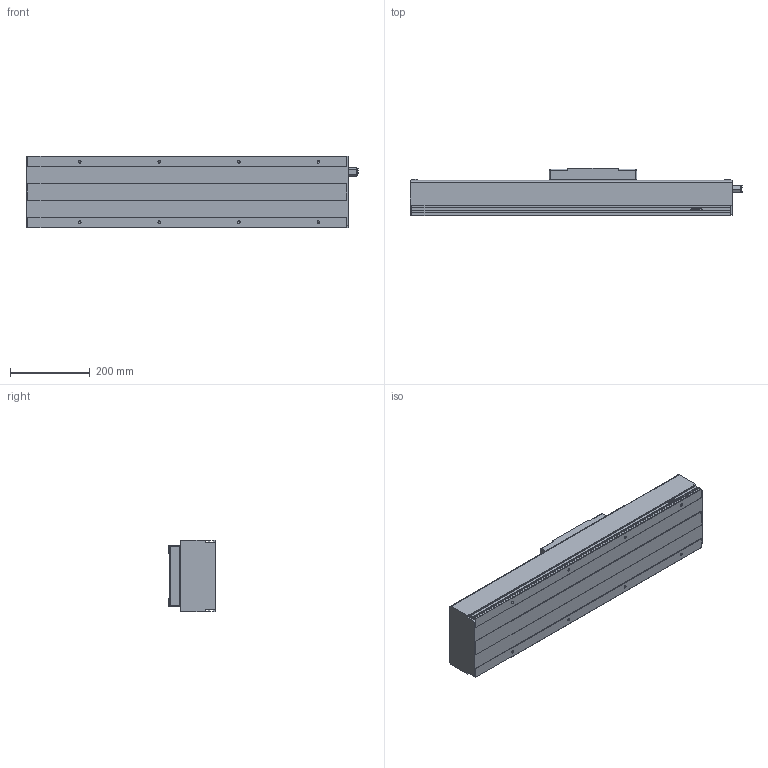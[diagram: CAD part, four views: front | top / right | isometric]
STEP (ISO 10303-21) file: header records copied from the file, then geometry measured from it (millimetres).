
FILE_DESCRIPTION(/* description */ (''),/* implementation_level */ '2;1');
FILE_NAME(/* name */ 'D:\混合母檔20191031\混和母檔\混和母檔\bin\Debug\Download\3D\KS180-20C-300AFI\KS180-20C-300AFI.stp',/* time_stamp */ '2019-11-04T16:18:29+08:00',/* author */ ('user'),/* organization */ (''),/* preprocessor_version */ 'ST-DEVELOPER v16.13',/* originating_system */ 'Autodesk Inventor 2018',/* authorisation */ '');
FILE_SCHEMA (('AUTOMOTIVE_DESIGN { 1 0 10303 214 3 1 1 }'));
Length unit declared in the file: millimetre
Products named in the file (3): KS180-20C-300AFI; KS180-FI; KS180-SL
Assembly tree (2 placements, depth 2):
  KS180-20C-300AFI
    KS180-FI
    KS180-SL
Bounding box: 834.5 x 118 x 180 mm (x, y, z)
Volume: 5079730.2 mm3; surface area: 1062921.8 mm2
Topology: 4 solids, 8 shells, 726 faces, 1934 edges, 1262 vertices
Faces by surface type: plane 408, bspline 136, cylinder 82, cone 80, torus 16, sphere 4
Full cylindrical faces by diameter (mm): 3.571 x4, 4 x4, 4.134 x4, 4.5 x4, 6 x6, 6.647 x8, 8 x6, 8.016 x1, 8.4 x4, 9.4 x4, 12 x2, 13.1 x1, 15 x1, 18.75 x2, 46 x1, 50 x1
Entity records: 26263 total; most frequent: CARTESIAN_POINT 9304, ORIENTED_EDGE 3650, DIRECTION 3034, EDGE_CURVE 1824, VERTEX_POINT 1241, LINE 1172, VECTOR 1172, AXIS2_PLACEMENT_3D 931
